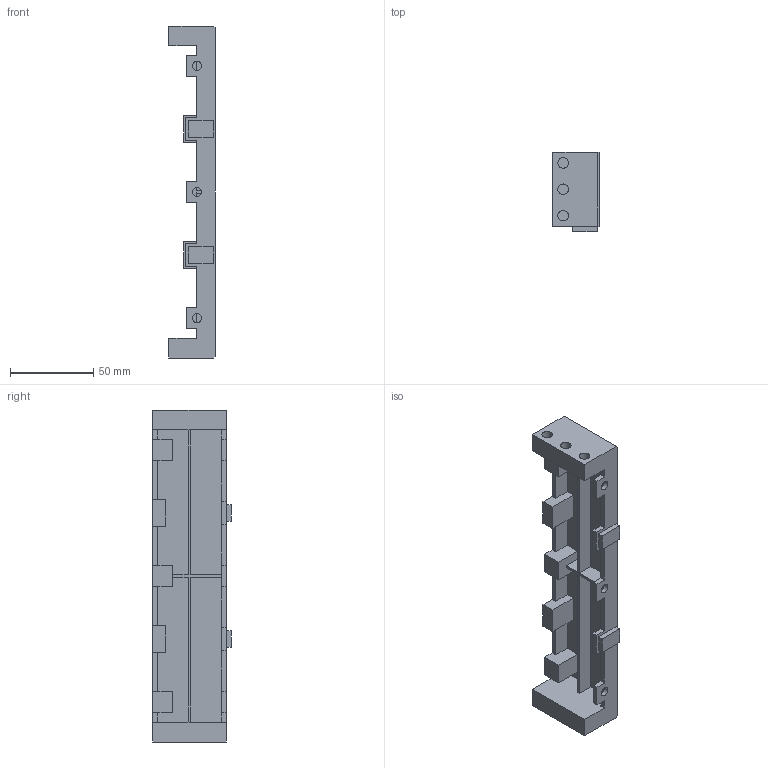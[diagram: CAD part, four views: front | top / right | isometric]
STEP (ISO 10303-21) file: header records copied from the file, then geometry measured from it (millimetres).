
FILE_DESCRIPTION(('Open CASCADE Model'),'2;1');
FILE_NAME('Open CASCADE Shape Model','2026-10-27T02:33:58',('Author'),( 'Open CASCADE'),'Open CASCADE STEP processor 7.9','Open CASCADE 7.9' ,'Unknown');
FILE_SCHEMA(('AUTOMOTIVE_DESIGN { 1 0 10303 214 1 1 1 1 }'));
Length unit declared in the file: millimetre
Products named in the file (1): Open CASCADE STEP translator 7.9 3
Bounding box: 28 x 47.45 x 200 mm (x, y, z)
Volume: 61134.3 mm3; surface area: 41232.2 mm2
Topology: 1 solids, 1 shells, 120 faces, 318 edges, 212 vertices
Faces by surface type: plane 108, cylinder 12
Full cylindrical faces by diameter (mm): 5.5 x3, 6.4 x9
Entity records: 7661 total; most frequent: CARTESIAN_POINT 1585, DIRECTION 999, LINE 694, VECTOR 694, ORIENTED_EDGE 636, PCURVE 636, DEFINITIONAL_REPRESENTATION 636, EDGE_CURVE 318
